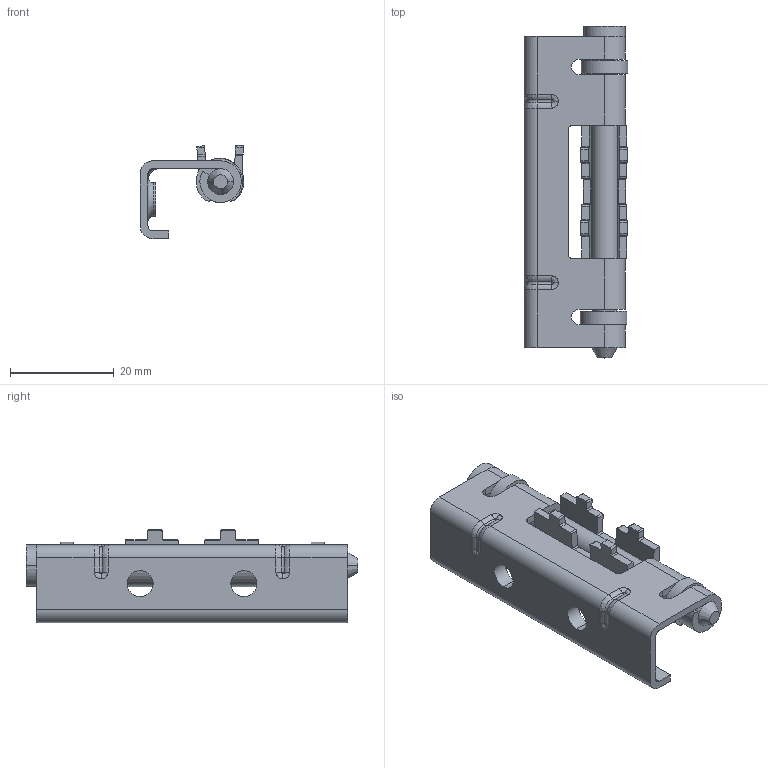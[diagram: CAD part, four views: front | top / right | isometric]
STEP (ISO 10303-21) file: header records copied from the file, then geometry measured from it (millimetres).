
FILE_DESCRIPTION(/* description */ (''),/* implementation_level */ '2;1');
FILE_NAME(/* name */ 'JL050',/* time_stamp */ '2025-05-24T15:01:33+08:00',/* author */ (''),/* organization */ (''),/* preprocessor_version */ 'ST-DEVELOPER v19.2',/* originating_system */ 'Rhino 8.5',/* authorisation */ '');
FILE_SCHEMA (('CONFIG_CONTROL_DESIGN'));
Length unit declared in the file: millimetre
Products named in the file (1): Document
Bounding box: 19.99 x 64 x 17.99 mm (x, y, z)
Volume: 5427.9 mm3; surface area: 7544.7 mm2
Topology: 5 solids, 5 shells, 191 faces, 480 edges, 304 vertices
Faces by surface type: cylinder 86, plane 63, bspline 42
Entity records: 7424 total; most frequent: CARTESIAN_POINT 3669, ORIENTED_EDGE 960, EDGE_CURVE 480, DIRECTION 413, VERTEX_POINT 304, AXIS2_PLACEMENT_3D 281, B_SPLINE_CURVE_WITH_KNOTS 223, EDGE_LOOP 200
